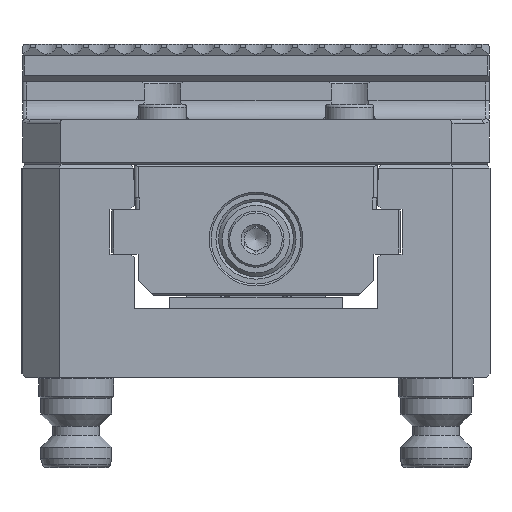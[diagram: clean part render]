
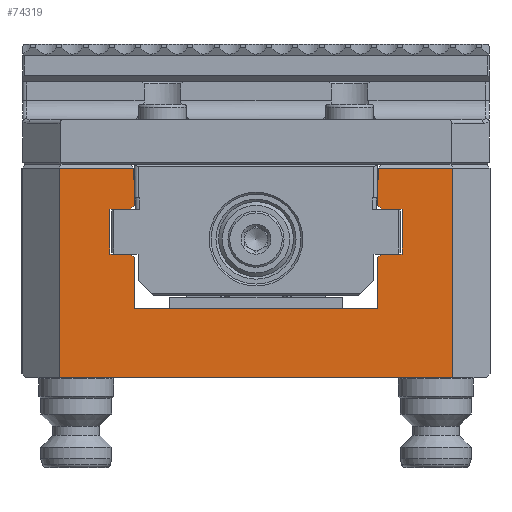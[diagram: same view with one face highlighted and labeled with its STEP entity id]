
A CAD part, left-side view. The second image highlights one B-rep face of the part: STEP entity #74319.
In plain terms, the highlighted planar face has unit normal (-1, 0, 0).
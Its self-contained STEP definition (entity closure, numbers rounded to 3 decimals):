
#1726=LINE('',#96020,#8696);
#1755=LINE('',#96089,#8725);
#1781=LINE('',#96159,#8751);
#1798=LINE('',#96228,#8768);
#1806=LINE('',#96244,#8776);
#1811=LINE('',#96253,#8781);
#1831=LINE('',#96289,#8801);
#1835=LINE('',#96296,#8805);
#1840=LINE('',#96306,#8810);
#1841=LINE('',#96307,#8811);
#1842=LINE('',#96308,#8812);
#1843=LINE('',#96310,#8813);
#1844=LINE('',#96312,#8814);
#1845=LINE('',#96314,#8815);
#1846=LINE('',#96316,#8816);
#1847=LINE('',#96318,#8817);
#1848=LINE('',#96320,#8818);
#1849=LINE('',#96321,#8819);
#1850=LINE('',#96323,#8820);
#1851=LINE('',#96325,#8821);
#1852=LINE('',#96327,#8822);
#1853=LINE('',#96329,#8823);
#1854=LINE('',#96331,#8824);
#1855=LINE('',#96332,#8825);
#8696=VECTOR('',#81790,1000.);
#8725=VECTOR('',#81835,1000.);
#8751=VECTOR('',#81887,1000.);
#8768=VECTOR('',#81946,1000.);
#8776=VECTOR('',#81958,1000.);
#8781=VECTOR('',#81965,1000.);
#8801=VECTOR('',#81991,1000.);
#8805=VECTOR('',#81997,1000.);
#8810=VECTOR('',#82004,1000.);
#8811=VECTOR('',#82005,1000.);
#8812=VECTOR('',#82006,1000.);
#8813=VECTOR('',#82007,1000.);
#8814=VECTOR('',#82008,1000.);
#8815=VECTOR('',#82009,1000.);
#8816=VECTOR('',#82010,1000.);
#8817=VECTOR('',#82011,1000.);
#8818=VECTOR('',#82012,1000.);
#8819=VECTOR('',#82013,1000.);
#8820=VECTOR('',#82014,1000.);
#8821=VECTOR('',#82015,1000.);
#8822=VECTOR('',#82016,1000.);
#8823=VECTOR('',#82017,1000.);
#8824=VECTOR('',#82018,1000.);
#8825=VECTOR('',#82019,1000.);
#15668=PLANE('',#78421);
#17860=FACE_OUTER_BOUND('',#21921,.T.);
#21921=EDGE_LOOP('',(#47316,#47317,#47318,#47319,#47320,#47321,#47322,#47323,
#47324,#47325,#47326,#47327,#47328,#47329,#47330,#47331,#47332,#47333,#47334,
#47335,#47336,#47337,#47338,#47339));
#29250=VERTEX_POINT('',#96017);
#29251=VERTEX_POINT('',#96019);
#29273=VERTEX_POINT('',#96067);
#29283=VERTEX_POINT('',#96087);
#29313=VERTEX_POINT('',#96156);
#29314=VERTEX_POINT('',#96158);
#29342=VERTEX_POINT('',#96216);
#29345=VERTEX_POINT('',#96227);
#29347=VERTEX_POINT('',#96233);
#29351=VERTEX_POINT('',#96243);
#29354=VERTEX_POINT('',#96251);
#29368=VERTEX_POINT('',#96293);
#29373=VERTEX_POINT('',#96305);
#29374=VERTEX_POINT('',#96309);
#29375=VERTEX_POINT('',#96311);
#29376=VERTEX_POINT('',#96313);
#29377=VERTEX_POINT('',#96315);
#29378=VERTEX_POINT('',#96317);
#29379=VERTEX_POINT('',#96319);
#29380=VERTEX_POINT('',#96322);
#29381=VERTEX_POINT('',#96324);
#29382=VERTEX_POINT('',#96326);
#29383=VERTEX_POINT('',#96328);
#29384=VERTEX_POINT('',#96330);
#36307=EDGE_CURVE('',#29251,#29250,#1726,.T.);
#36340=EDGE_CURVE('',#29273,#29283,#1755,.T.);
#36374=EDGE_CURVE('',#29314,#29313,#1781,.T.);
#36409=EDGE_CURVE('',#29342,#29345,#1798,.T.);
#36417=EDGE_CURVE('',#29347,#29351,#1806,.T.);
#36422=EDGE_CURVE('',#29347,#29354,#1811,.T.);
#36442=EDGE_CURVE('',#29250,#29345,#1831,.T.);
#36446=EDGE_CURVE('',#29354,#29368,#1835,.T.);
#36451=EDGE_CURVE('',#29373,#29342,#1840,.T.);
#36452=EDGE_CURVE('',#29314,#29373,#1841,.T.);
#36453=EDGE_CURVE('',#29351,#29313,#1842,.T.);
#36454=EDGE_CURVE('',#29368,#29374,#1843,.T.);
#36455=EDGE_CURVE('',#29374,#29375,#1844,.T.);
#36456=EDGE_CURVE('',#29375,#29376,#1845,.T.);
#36457=EDGE_CURVE('',#29376,#29377,#1846,.T.);
#36458=EDGE_CURVE('',#29377,#29378,#1847,.T.);
#36459=EDGE_CURVE('',#29378,#29379,#1848,.T.);
#36460=EDGE_CURVE('',#29379,#29273,#1849,.T.);
#36461=EDGE_CURVE('',#29283,#29380,#1850,.T.);
#36462=EDGE_CURVE('',#29380,#29381,#1851,.T.);
#36463=EDGE_CURVE('',#29381,#29382,#1852,.T.);
#36464=EDGE_CURVE('',#29382,#29383,#1853,.T.);
#36465=EDGE_CURVE('',#29383,#29384,#1854,.T.);
#36466=EDGE_CURVE('',#29384,#29251,#1855,.T.);
#47316=ORIENTED_EDGE('',*,*,#36451,.F.);
#47317=ORIENTED_EDGE('',*,*,#36452,.F.);
#47318=ORIENTED_EDGE('',*,*,#36374,.T.);
#47319=ORIENTED_EDGE('',*,*,#36453,.F.);
#47320=ORIENTED_EDGE('',*,*,#36417,.F.);
#47321=ORIENTED_EDGE('',*,*,#36422,.T.);
#47322=ORIENTED_EDGE('',*,*,#36446,.T.);
#47323=ORIENTED_EDGE('',*,*,#36454,.T.);
#47324=ORIENTED_EDGE('',*,*,#36455,.T.);
#47325=ORIENTED_EDGE('',*,*,#36456,.T.);
#47326=ORIENTED_EDGE('',*,*,#36457,.T.);
#47327=ORIENTED_EDGE('',*,*,#36458,.T.);
#47328=ORIENTED_EDGE('',*,*,#36459,.T.);
#47329=ORIENTED_EDGE('',*,*,#36460,.T.);
#47330=ORIENTED_EDGE('',*,*,#36340,.T.);
#47331=ORIENTED_EDGE('',*,*,#36461,.T.);
#47332=ORIENTED_EDGE('',*,*,#36462,.T.);
#47333=ORIENTED_EDGE('',*,*,#36463,.T.);
#47334=ORIENTED_EDGE('',*,*,#36464,.T.);
#47335=ORIENTED_EDGE('',*,*,#36465,.T.);
#47336=ORIENTED_EDGE('',*,*,#36466,.T.);
#47337=ORIENTED_EDGE('',*,*,#36307,.T.);
#47338=ORIENTED_EDGE('',*,*,#36442,.T.);
#47339=ORIENTED_EDGE('',*,*,#36409,.F.);
#74319=ADVANCED_FACE('',(#17860),#15668,.T.);
#78421=AXIS2_PLACEMENT_3D('',#96304,#82002,#82003);
#81790=DIRECTION('',(0.,0.,1.));
#81835=DIRECTION('',(0.,1.,0.));
#81887=DIRECTION('',(0.,-1.,0.));
#81946=DIRECTION('',(0.,0.,-1.));
#81958=DIRECTION('',(0.,-1.,0.));
#81965=DIRECTION('',(0.,0.,-1.));
#81991=DIRECTION('',(0.,1.,0.));
#81997=DIRECTION('',(0.,1.,0.));
#82002=DIRECTION('center_axis',(-1.,0.,0.));
#82003=DIRECTION('ref_axis',(0.,-1.,0.));
#82004=DIRECTION('',(0.,-1.,0.));
#82005=DIRECTION('',(0.,0.,1.));
#82006=DIRECTION('',(0.,0.,-1.));
#82007=DIRECTION('',(0.,0.,-1.));
#82008=DIRECTION('',(0.,-0.707,-0.707));
#82009=DIRECTION('',(0.,-1.,0.));
#82010=DIRECTION('',(0.,0.,-1.));
#82011=DIRECTION('',(0.,1.,0.));
#82012=DIRECTION('',(0.,0.707,-0.707));
#82013=DIRECTION('',(0.,0.,-1.));
#82014=DIRECTION('',(0.,0.,1.));
#82015=DIRECTION('',(0.,0.707,0.707));
#82016=DIRECTION('',(0.,1.,0.));
#82017=DIRECTION('',(0.,0.,1.));
#82018=DIRECTION('',(0.,-1.,0.));
#82019=DIRECTION('',(0.,-0.707,0.707));
#96017=CARTESIAN_POINT('',(-180.,32.5,64.));
#96019=CARTESIAN_POINT('',(-180.,32.5,57.));
#96020=CARTESIAN_POINT('',(-180.,32.5,57.));
#96067=CARTESIAN_POINT('',(-180.,-32.5,29.5));
#96087=CARTESIAN_POINT('',(-180.,32.5,29.5));
#96089=CARTESIAN_POINT('',(-180.,-32.5,29.5));
#96156=CARTESIAN_POINT('',(-180.,-52.5,11.));
#96158=CARTESIAN_POINT('',(-180.,52.5,11.));
#96159=CARTESIAN_POINT('',(-180.,61.5,11.));
#96216=CARTESIAN_POINT('',(-180.,32.7,67.));
#96227=CARTESIAN_POINT('',(-180.,32.7,64.));
#96228=CARTESIAN_POINT('',(-180.,32.7,66.65));
#96233=CARTESIAN_POINT('',(-180.,-32.7,67.));
#96243=CARTESIAN_POINT('',(-180.,-52.5,67.));
#96244=CARTESIAN_POINT('',(-180.,-31.25,67.));
#96251=CARTESIAN_POINT('',(-180.,-32.7,64.));
#96253=CARTESIAN_POINT('',(-180.,-32.7,51.75));
#96289=CARTESIAN_POINT('',(-180.,16.35,64.));
#96293=CARTESIAN_POINT('',(-180.,-32.5,64.));
#96296=CARTESIAN_POINT('',(-180.,-15.101,64.));
#96304=CARTESIAN_POINT('Origin',(-180.,0.,39.5));
#96305=CARTESIAN_POINT('',(-180.,52.5,67.));
#96306=CARTESIAN_POINT('',(-180.,31.25,67.));
#96307=CARTESIAN_POINT('',(-180.,52.5,25.25));
#96308=CARTESIAN_POINT('',(-180.,-52.5,25.25));
#96309=CARTESIAN_POINT('',(-180.,-32.5,57.));
#96310=CARTESIAN_POINT('',(-180.,-32.5,66.));
#96311=CARTESIAN_POINT('',(-180.,-33.5,56.));
#96312=CARTESIAN_POINT('',(-180.,-32.5,57.));
#96313=CARTESIAN_POINT('',(-180.,-39.,56.));
#96314=CARTESIAN_POINT('',(-180.,-33.5,56.));
#96315=CARTESIAN_POINT('',(-180.,-39.,44.));
#96316=CARTESIAN_POINT('',(-180.,-39.,56.));
#96317=CARTESIAN_POINT('',(-180.,-33.5,44.));
#96318=CARTESIAN_POINT('',(-180.,-39.,44.));
#96319=CARTESIAN_POINT('',(-180.,-32.5,43.));
#96320=CARTESIAN_POINT('',(-180.,-33.5,44.));
#96321=CARTESIAN_POINT('',(-180.,-32.5,43.));
#96322=CARTESIAN_POINT('',(-180.,32.5,43.));
#96323=CARTESIAN_POINT('',(-180.,32.5,29.5));
#96324=CARTESIAN_POINT('',(-180.,33.5,44.));
#96325=CARTESIAN_POINT('',(-180.,32.5,43.));
#96326=CARTESIAN_POINT('',(-180.,39.,44.));
#96327=CARTESIAN_POINT('',(-180.,33.5,44.));
#96328=CARTESIAN_POINT('',(-180.,39.,56.));
#96329=CARTESIAN_POINT('',(-180.,39.,44.));
#96330=CARTESIAN_POINT('',(-180.,33.5,56.));
#96331=CARTESIAN_POINT('',(-180.,39.,56.));
#96332=CARTESIAN_POINT('',(-180.,33.5,56.));
